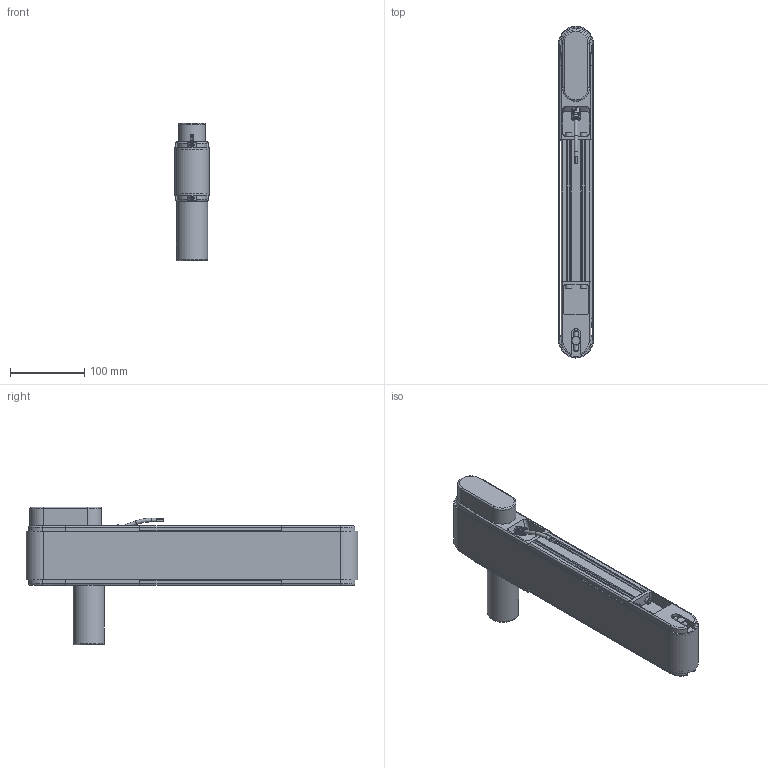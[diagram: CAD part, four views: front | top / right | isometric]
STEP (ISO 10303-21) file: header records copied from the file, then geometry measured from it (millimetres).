
FILE_DESCRIPTION(/* description */ (''),/* implementation_level */ '2;1');
FILE_NAME(/* name */ 'G:\DATEN\CAD\Förderband\Marketing\3D-Modelle (Standard)\FR-40-80-Q\FR-40-80-Q-400-K (Motorendrohr 80 mm).stp',/* time_stamp */ '2019-05-08T14:06:13+02:00',/* author */ ('melanie.ochs'),/* organization */ (''),/* preprocessor_version */ 'ST-DEVELOPER v17',/* originating_system */ 'Autodesk Inventor 2019',/* authorisation */ '');
FILE_SCHEMA (('CONFIG_CONTROL_DESIGN'));
Length unit declared in the file: centimetre
Products named in the file (1): FR-40-80-Q-400-K (Motorendrohr 80 mm)
Bounding box: 46.6 x 446.6 x 185 mm (x, y, z)
Volume: 1134913.6 mm3; surface area: 426025.6 mm2
Topology: 31 solids, 32 shells, 869 faces, 2364 edges, 1606 vertices
Faces by surface type: plane 438, cylinder 271, cone 68, bspline 61, torus 31
Full cylindrical faces by diameter (mm): 2 x2, 4 x6, 4.3 x4, 4.65 x1, 4.917 x2, 5 x11, 5.5 x8, 6 x2, 6.5 x1, 6.773 x1, 6.917 x2, 8 x7, 8.3 x8, 8.5 x8, 8.773 x1, 10 x1, 11 x1, 12 x3, 25 x2, 28 x4, 42 x2, 44 x2
Entity records: 29211 total; most frequent: CARTESIAN_POINT 6159, ORIENTED_EDGE 4692, DIRECTION 4543, EDGE_CURVE 2346, AXIS2_PLACEMENT_3D 1642, VERTEX_POINT 1606, LINE 1259, VECTOR 1259
